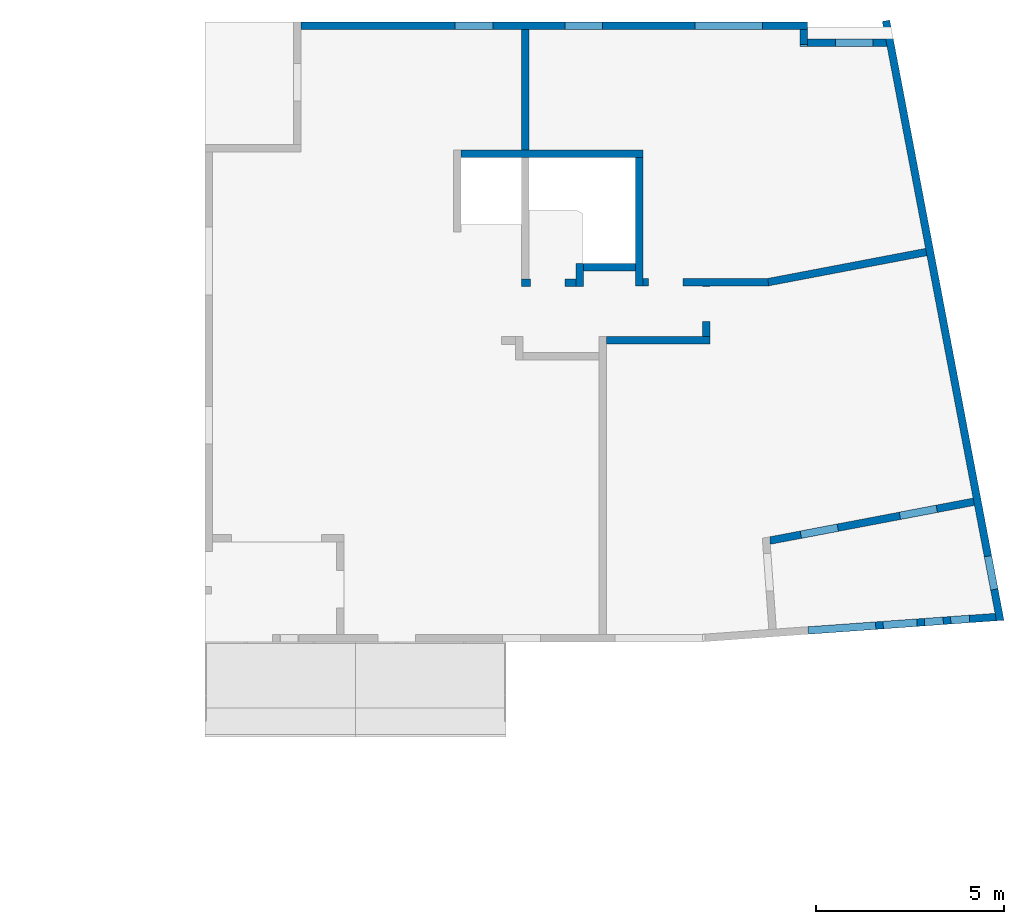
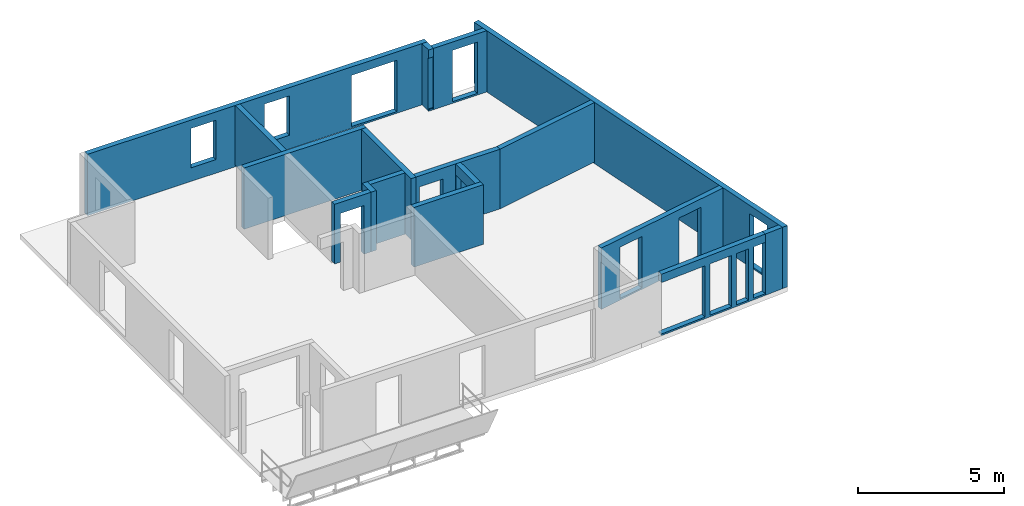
# One storey, part 2 of 6: 17 walls, 17 openings.
"""IFC2X3 building model written with IfcOpenShell, lengths in centimetres."""

from ifc_helpers import new_model, entity, si_unit, converted_unit, derived_unit, direction, frame, frame_2d, origin, origin_2d_with_axis, place, context, subcontext, project, spatial, polyline, rectangle, outline, extrude, clip, bounded_halfspace, material, layer, layer_set, layer_usage, type_object, element, save


model = new_model("IFC2X3")

# Units and contexts
model_context = context("Model", 3, precision=0.001, world=origin(), true_north=direction((6.12303176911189e-17, 1.0)))
body_context = subcontext(model_context, "Body", "Model", "MODEL_VIEW")
ifc_project = project(units=[si_unit("LENGTHUNIT", "METRE", prefix="CENTI"), si_unit("AREAUNIT", "SQUARE_METRE"), si_unit("VOLUMEUNIT", "CUBIC_METRE"), converted_unit("PLANEANGLEUNIT", "DEGREE", entity("IfcRatioMeasure", 0.0174532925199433), si_unit("PLANEANGLEUNIT", "RADIAN"), dimensions=[0, 0, 0, 0, 0, 0, 0]), si_unit("MASSUNIT", "GRAM", prefix="KILO"), si_unit("TIMEUNIT", "SECOND"), si_unit("FREQUENCYUNIT", "HERTZ"), si_unit("THERMODYNAMICTEMPERATUREUNIT", "DEGREE_CELSIUS"), derived_unit("THERMALTRANSMITTANCEUNIT", [(si_unit("MASSUNIT", "GRAM", prefix="KILO"), 1), (si_unit("THERMODYNAMICTEMPERATUREUNIT", "KELVIN"), -1), (si_unit("TIMEUNIT", "SECOND"), -3)]), derived_unit("VOLUMETRICFLOWRATEUNIT", [(si_unit("LENGTHUNIT", "METRE"), 3), (si_unit("TIMEUNIT", "SECOND"), -1)]), si_unit("ELECTRICCURRENTUNIT", "AMPERE"), si_unit("ELECTRICVOLTAGEUNIT", "VOLT"), si_unit("POWERUNIT", "WATT"), si_unit("FORCEUNIT", "NEWTON"), si_unit("ILLUMINANCEUNIT", "LUX"), si_unit("LUMINOUSFLUXUNIT", "LUMEN"), si_unit("LUMINOUSINTENSITYUNIT", "CANDELA"), derived_unit("USERDEFINED", [(si_unit("MASSUNIT", "GRAM", prefix="KILO"), -1), (si_unit("LENGTHUNIT", "METRE"), -2), (si_unit("TIMEUNIT", "SECOND"), 3), (si_unit("LUMINOUSFLUXUNIT", "LUMEN"), 1)]), derived_unit("LINEARVELOCITYUNIT", [(si_unit("LENGTHUNIT", "METRE"), 1), (si_unit("TIMEUNIT", "SECOND"), -1)]), si_unit("PRESSUREUNIT", "PASCAL"), derived_unit("USERDEFINED", [(si_unit("LENGTHUNIT", "METRE"), -2), (si_unit("MASSUNIT", "GRAM", prefix="KILO"), 1), (si_unit("TIMEUNIT", "SECOND"), -2)])], contexts=[model_context])

# Site, building, storey
site_placement = place(None, origin())
site = spatial("IfcSite", under=ifc_project, at=site_placement, Name="Default", CompositionType="ELEMENT")
building_placement = place(site_placement, origin())
building = spatial("IfcBuilding", under=site, at=building_placement, CompositionType="ELEMENT")
storey_placement = place(building_placement, frame((0.0, 0.0, 544.0)))
storey = spatial("IfcBuildingStorey", under=building, at=storey_placement, Name="R+2", CompositionType="ELEMENT", Elevation=544.0)

# Wall, openings
ifc_material_1 = material(Name="Maçonnerie - Béton")
ifc_layer_1 = layer(ifc_material_1, 20.0)
ifc_layer_set_1 = layer_set([ifc_layer_1], Name="Mur de base:BBM_20")
ifc_layer_usage_1 = layer_usage(ifc_layer_set_1, "AXIS2", "NEGATIVE", 10.0)
wall_type_1 = type_object("IfcWallType", Name="Mur de base:BBM_20", PredefinedType="STANDARD", material=ifc_layer_set_1)
wall_1_placement = place(storey_placement, frame((1132.41125005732, 24844.4146604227, -7.0)))
wall_1 = element("IfcWallStandardCase", 1, at=wall_1_placement, inside=storey, type_object=wall_type_1, material=ifc_layer_usage_1, Name="Mur de base:BBM_20", ObjectType="Mur de base:BBM_20", context=body_context, shape_type="Clipping", body=[
    clip(extrude(rectangle(XDim=1346.37702640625, YDim=20.0000000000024, at=frame_2d((673.188513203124, 0.0), x_axis=(-1.0, 0.0))), origin(), (0.0, 0.0, 1.0), 257.0), bounded_halfspace(frame((0.0, -10.0, 257.0), z_axis=(0.0, 0.0, -1.0), x_axis=(0.0, 1.0, 0.0)), True, frame((0.0, -10.0, 257.0)), polyline([(0.0, 0.0), (585.380894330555, 0.0), (605.380894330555, 0.0), (1326.37702640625, 0.0), (1346.37702640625, 0.0), (1346.37702640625, 20.0), (1336.37702640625, 20.0), (0.0, 20.0), (0.0, 0.0)]))),
])
opening_1_placement = place(wall_1_placement, frame((-1132.41125005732, -24844.4146604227, 7.0)))
element("IfcOpeningElement", 2, at=opening_1_placement, cuts=wall_1, Name="Mur de base:BBM_20", ObjectType="Opening", context=body_context, shape_type="SweptSolid", body=[
    extrude(rectangle(XDim=215.0, YDim=180.0, at=origin_2d_with_axis()), frame((2268.78827646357, 24702.0146604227, 107.5), z_axis=(0.0, 1.0, 0.0), x_axis=(0.0, 0.0, -1.0)), (0.0, 0.0, 1.0), 304.8),
])
opening_2_placement = place(wall_1_placement, frame((-1132.41125005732, -24844.4146604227, 7.0)))
element("IfcOpeningElement", 3, at=opening_2_placement, cuts=wall_1, Name="Mur de base:BBM_20", ObjectType="Opening", context=body_context, shape_type="SweptSolid", body=[
    extrude(rectangle(XDim=165.0, YDim=100.0, at=frame_2d((-5.6843418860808e-14, 1.10134124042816e-13), x_axis=(1.0, 0.0))), frame((1591.79214438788, 24702.0146604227, 132.5), z_axis=(0.0, 1.0, 0.0), x_axis=(0.0, 0.0, -1.0)), (0.0, 0.0, 1.0), 304.8),
])
opening_3_placement = place(wall_1_placement, frame((-1132.41125005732, -24844.4146604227, 7.0)))
element("IfcOpeningElement", 4, at=opening_3_placement, cuts=wall_1, Name="Mur de base:BBM_20", ObjectType="Opening", context=body_context, shape_type="SweptSolid", body=[
    extrude(rectangle(XDim=165.0, YDim=100.0, at=frame_2d((-5.6843418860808e-14, -1.06581410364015e-13), x_axis=(1.0, 0.0))), frame((1883.79214438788, 24702.0146604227, 132.5), z_axis=(0.0, 1.0, 0.0), x_axis=(0.0, 0.0, -1.0)), (0.0, 0.0, 1.0), 304.8),
])

# Wall, opening
ifc_layer_usage_2 = layer_usage(ifc_layer_set_1, "AXIS2", "NEGATIVE", 10.0)
wall_2_placement = place(storey_placement, frame((2468.78827646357, 24834.4146604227, -7.0), z_axis=(0.0, 0.0, 1.0), x_axis=(0.0, -1.0, 0.0)))
wall_2 = element("IfcWallStandardCase", 5, at=wall_2_placement, inside=storey, type_object=wall_type_1, material=ifc_layer_usage_2, Name="Mur de base:BBM_20", ObjectType="Mur de base:BBM_20", context=body_context, shape_type="Clipping", body=[
    clip(extrude(rectangle(XDim=44.3031556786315, YDim=19.9999999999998, at=frame_2d((22.1515778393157, 5.24025267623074e-14), x_axis=(-1.0, 0.0))), origin(), (0.0, 0.0, 1.0), 257.0), bounded_halfspace(frame((0.0, -10.0, 257.0), z_axis=(0.0, 0.0, -1.0), x_axis=(-1.0, 0.0, 0.0)), True, frame((0.0, -10.0, 257.0)), polyline([(0.0, 0.0), (44.3031556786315, 0.0), (44.3031556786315, 20.0), (24.3031556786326, 20.0), (0.0, 20.0), (0.0, 0.0)]))),
])
opening_4_placement = place(wall_2_placement, frame((24834.4146604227, -2468.78827646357, 7.0), z_axis=(0.0, 0.0, 1.0), x_axis=(0.0, 1.0, 0.0)))
element("IfcOpeningElement", 6, at=opening_4_placement, cuts=wall_2, Name="Mur de base:BBM_20", ObjectType="Opening", context=body_context, shape_type="SweptSolid", body=[
    extrude(rectangle(XDim=215.0, YDim=99.9999999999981, at=frame_2d((1.73372427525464e-12, 0.0), x_axis=(0.0, 1.0))), frame((2306.38827646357, 24744.4665988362, 107.5), z_axis=(1.0, 0.0, 0.0), x_axis=(0.0, -1.0, 0.0)), (0.0, 0.0, 1.0), 304.8),
])

# Wall, openings
ifc_layer_usage_3 = layer_usage(ifc_layer_set_1, "AXIS2", "NEGATIVE", 10.0)
wall_3_placement = place(storey_placement, frame((2478.78827646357, 24800.1115047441, -7.0)))
wall_3 = element("IfcWallStandardCase", 7, at=wall_3_placement, inside=storey, type_object=wall_type_1, material=ifc_layer_usage_3, Name="Mur de base:BBM_20", ObjectType="Mur de base:BBM_20", context=body_context, shape_type="Clipping", body=[
    clip(extrude(outline(polyline([(211.092975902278, -10.0), (207.284266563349, 10.0), (0.0, 10.0), (0.0, -10.0), (211.092975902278, -10.0)])), origin(), (0.0, 0.0, 1.0), 257.0), bounded_halfspace(frame((0.0, -10.0, 257.0), z_axis=(0.0, 0.0, -1.0), x_axis=(0.0, 1.0, 0.0)), True, frame((0.0, -10.0, 257.0)), polyline([(0.0, 0.0), (211.092975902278, 0.0), (207.284266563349, 20.0), (0.0, 20.0), (0.0, 0.0)]))),
])
opening_5_placement = place(wall_3_placement, origin())
element("IfcOpeningElement", 8, at=opening_5_placement, cuts=wall_3, Name="Mur de base:BBM_20", ObjectType="Opening", context=body_context, shape_type="SweptSolid", body=[
    extrude(rectangle(XDim=215.0, YDim=19.9999999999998, at=frame_2d((0.0, 0.0), x_axis=(0.0, 1.0))), frame((-10.0, -105.64490590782, 114.5), z_axis=(0.0, 1.0, 0.0), x_axis=(1.0, 0.0, 0.0)), (0.0, 0.0, 1.0), 99.9999999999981),
])
opening_6_placement = place(wall_3_placement, frame((-2478.78827646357, -24800.1115047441, 7.0)))
element("IfcOpeningElement", 9, at=opening_6_placement, cuts=wall_3, Name="Mur de base:BBM_20", ObjectType="Opening", context=body_context, shape_type="SweptSolid", body=[
    extrude(rectangle(XDim=215.0, YDim=99.9999999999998, at=frame_2d((0.0, 4.29878355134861e-13), x_axis=(1.0, 0.0))), frame((2602.78827646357, 24657.711504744, 107.5), z_axis=(0.0, 1.0, 0.0), x_axis=(0.0, 0.0, -1.0)), (0.0, 0.0, 1.0), 304.8),
])

ifc_layer_usage_4 = layer_usage(ifc_layer_set_1, "AXIS2", "NEGATIVE", 10.0)
wall_4_placement = place(storey_placement, frame((2377.58832301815, 23476.1672164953, -7.0), z_axis=(0.0, 0.0, 1.0), x_axis=(0.982345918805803, 0.187073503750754, 0.0)))
wall_4 = element("IfcWallStandardCase", 10, at=wall_4_placement, inside=storey, type_object=wall_type_1, material=ifc_layer_usage_4, Name="Mur de base:BBM_20", ObjectType="Mur de base:BBM_20", context=body_context, shape_type="Clipping", body=[
    clip(extrude(outline(polyline([(552.583846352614, -10.0), (552.583846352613, 10.0), (2.34328815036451, 10.0), (0.0, -10.0), (552.583846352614, -10.0)])), origin(), (0.0, 0.0, 1.0), 257.0), bounded_halfspace(frame((0.0, -10.0, 257.0), z_axis=(0.0, 0.0, -1.0), x_axis=(0.187073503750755, 0.982345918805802, 0.0)), True, frame((0.0, -10.0, 257.0)), polyline([(0.0, 0.0), (552.583846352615, 0.0), (552.583846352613, 20.0), (2.34328815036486, 20.0), (0.0, 0.0)]))),
])
opening_7_placement = place(wall_4_placement, frame((-6727.38304154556, -22616.9332762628, 7.0), z_axis=(0.0, 0.0, 1.0), x_axis=(0.982345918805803, -0.187073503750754, 0.0)))
element("IfcOpeningElement", 11, at=opening_7_placement, cuts=wall_4, Name="Mur de base:BBM_20", ObjectType="Opening", context=body_context, shape_type="SweptSolid", body=[
    extrude(rectangle(XDim=215.0, YDim=100.0, at=frame_2d((-4.2632564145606e-13, 0.0), x_axis=(0.0, 1.0))), frame((2540.17695222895, 23341.8113109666, 107.5), z_axis=(-0.18707350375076, 0.982345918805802, 0.0), x_axis=(0.982345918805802, 0.18707350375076, 0.0)), (0.0, 0.0, 1.0), 304.799999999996),
])
opening_8_placement = place(wall_4_placement, frame((-6727.38304154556, -22616.9332762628, 7.0), z_axis=(0.0, 0.0, 1.0), x_axis=(0.982345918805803, -0.187073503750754, 0.0)))
element("IfcOpeningElement", 12, at=opening_8_placement, cuts=wall_4, Name="Mur de base:BBM_20", ObjectType="Opening", context=body_context, shape_type="SweptSolid", body=[
    extrude(rectangle(XDim=215.0, YDim=100.0, at=origin_2d_with_axis()), frame((2799.70418839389, 23411.5939283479, 107.5), z_axis=(-0.18707350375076, 0.982345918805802, 0.0), x_axis=(0.0, 0.0, -1.0)), (0.0, 0.0, 1.0), 304.8),
])

# Wall, opening
ifc_layer_usage_5 = layer_usage(ifc_layer_set_1, "AXIS2", "NEGATIVE", 10.0)
wall_5_placement = place(storey_placement, frame((2990.93965217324, 23262.6718372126, -7.0), z_axis=(0.0, 0.0, 1.0), x_axis=(-0.187073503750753, 0.982345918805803, 0.0)))
wall_5 = element("IfcWallStandardCase", 13, at=wall_5_placement, inside=storey, type_object=wall_type_1, material=ifc_layer_usage_5, Name="Mur de base:BBM_20", ObjectType="Mur de base:BBM_20", context=body_context, shape_type="Clipping", body=[
    clip(extrude(outline(polyline([(1624.28965271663, -10.0), (1624.28965271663, 10.0), (1577.15360028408, 10.0), (1556.79417330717, 10.0), (334.468096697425, 10.0), (314.468096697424, 10.0), (22.4800952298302, 10.0), (2.34328815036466, 10.0), (0.0, -10.0), (1624.28965271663, -10.0)])), origin(), (0.0, 0.0, 1.0), 257.0), bounded_halfspace(frame((0.0, -10.0, 257.0), z_axis=(0.0, 0.0, -1.0), x_axis=(0.982345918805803, -0.187073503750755, 0.0)), True, frame((0.0, -10.0, 257.0)), polyline([(0.0, 0.0), (1618.44423408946, 0.0), (1622.25294342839, 20.0), (1577.15360028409, 20.0), (1556.79417330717, 20.0), (1010.14667715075, 20.0), (990.146677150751, 20.0), (334.468096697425, 20.0), (314.468096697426, 20.0), (22.4800952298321, 20.0), (2.34328815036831, 20.0), (0.0, 0.0)]))),
])
opening_9_placement = place(wall_5_placement, frame((-22292.4651795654, 7289.96688789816, 7.0), z_axis=(0.0, 0.0, 1.0), x_axis=(-0.187073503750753, -0.982345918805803, 0.0)))
element("IfcOpeningElement", 14, at=opening_9_placement, cuts=wall_5, Name="Mur de base:BBM_20", ObjectType="Opening", context=body_context, shape_type="SweptSolid", body=[
    extrude(rectangle(XDim=215.0, YDim=90.0000000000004, at=origin_2d_with_axis()), frame((3106.4612489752, 23417.2518833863, 107.5), z_axis=(-0.982345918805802, -0.187073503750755, 0.0), x_axis=(0.0, 0.0, -1.0)), (0.0, 0.0, 1.0), 304.800000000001),
])

ifc_layer_usage_6 = layer_usage(ifc_layer_set_1, "AXIS2", "NEGATIVE", 10.0)
wall_6_placement = place(storey_placement, frame((2979.96294066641, 23273.0774359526, -7.0), z_axis=(0.0, 0.0, 1.0), x_axis=(-0.997441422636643, -0.0714885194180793, 0.0)))
wall_6 = element("IfcWallStandardCase", 15, at=wall_6_placement, inside=storey, type_object=wall_type_1, material=ifc_layer_usage_6, Name="Mur de base:BBM_20", ObjectType="Mur de base:BBM_20", context=body_context, shape_type="Clipping", body=[
    clip(extrude(outline(polyline([(71.1032405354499, -10.0), (71.1032405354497, 9.85873829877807), (71.1032405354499, 10.0), (0.0, 10.0), (2.34328815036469, -10.0), (71.1032405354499, -10.0)])), origin(), (0.0, 0.0, 1.0), 257.0), bounded_halfspace(frame((2.34328815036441, -10.0, 257.0), z_axis=(0.0, 0.0, -1.0), x_axis=(-0.0714885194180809, -0.997441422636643, 0.0)), True, frame((2.34328815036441, -10.0, 257.0)), polyline([(0.0, 0.0), (68.759952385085, 0.0), (68.759952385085, 19.8587382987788), (68.7599523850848, 20.0), (-2.34328815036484, 20.0), (-2.3267373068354, 19.8587382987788), (0.0, 0.0)]))),
])
opening_10_placement = place(wall_6_placement, origin())
element("IfcOpeningElement", 16, at=opening_10_placement, cuts=wall_6, Name="Mur de base:BBM_20", ObjectType="Opening", context=body_context, shape_type="SweptSolid", body=[
    extrude(rectangle(XDim=215.0, YDim=50.0000000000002, at=frame_2d((2.1493917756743e-13, 0.0), x_axis=(0.0, 1.0))), frame((96.1032405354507, -162.541261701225, 114.5), z_axis=(0.0, 1.0, 0.0), x_axis=(1.0, 0.0, 0.0)), (0.0, 0.0, 1.0), 304.8),
])

# Walls
ifc_material_2 = material(Name="Béton_C25/30")
ifc_layer_2 = layer(ifc_material_2, 20.0)
ifc_layer_set_2 = layer_set([ifc_layer_2], Name="Mur de base:VOILE_20_C25/30")
ifc_layer_usage_7 = layer_usage(ifc_layer_set_2, "AXIS2", "NEGATIVE", 10.0)
wall_type_2 = type_object("IfcWallType", Name="Mur de base:VOILE_20_C25/30", PredefinedType="STANDARD", material=ifc_layer_set_2)
wall_7_placement = place(storey_placement, frame((1557.79189994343, 24505.1396586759, -7.0)))
element("IfcWallStandardCase", 17, at=wall_7_placement, inside=storey, type_object=wall_type_2, material=ifc_layer_usage_7, Name="Mur de base:VOILE_20_C25/30", ObjectType="Mur de base:VOILE_20_C25/30", context=body_context, shape_type="Clipping", body=[
    clip(extrude(rectangle(XDim=484.000708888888, YDim=20.0000000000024, at=frame_2d((242.000354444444, 0.0), x_axis=(-1.0, 0.0))), origin(), (0.0, 0.0, 1.0), 257.0), bounded_halfspace(frame((0.0, -10.0, 257.0), z_axis=(0.0, 0.0, -1.0), x_axis=(0.0, 1.0, 0.0)), True, frame((0.0, -10.0, 257.0)), polyline([(0.0, 0.0), (160.000244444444, 0.0), (180.000244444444, 0.0), (464.000708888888, 0.0), (484.000708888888, 0.0), (484.000708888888, 20.0), (180.000244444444, 20.0), (160.000244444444, 20.0), (0.0, 20.0), (0.0, 0.0)]))),
])
ifc_layer_usage_8 = layer_usage(ifc_layer_set_2, "AXIS2", "NEGATIVE", 10.0)
wall_8_placement = place(storey_placement, frame((2031.79260883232, 24495.1396586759, -7.0), z_axis=(0.0, 0.0, 1.0), x_axis=(0.0, -1.0, 0.0)))
element("IfcWallStandardCase", 18, at=wall_8_placement, inside=storey, type_object=wall_type_2, material=ifc_layer_usage_8, Name="Mur de base:VOILE_20_C25/30", ObjectType="Mur de base:VOILE_20_C25/30", context=body_context, shape_type="Clipping", body=[
    clip(extrude(rectangle(XDim=341.833817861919, YDim=19.9999999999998, at=frame_2d((170.916908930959, -4.44089209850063e-15), x_axis=(-1.0, 0.0))), origin(), (0.0, 0.0, 1.0), 257.0), bounded_halfspace(frame((0.0, -10.0, 257.0), z_axis=(0.0, 0.0, -1.0), x_axis=(-1.0, 0.0, 0.0)), True, frame((0.0, -10.0, 257.0)), polyline([(0.0, 0.0), (281.833729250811, 0.0), (301.83372925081, 0.0), (341.833817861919, 0.0), (341.833817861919, 20.0), (321.83381786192, 20.0), (0.0, 20.0), (0.0, 0.0)]))),
])
ifc_layer_usage_9 = layer_usage(ifc_layer_set_2, "AXIS2", "NEGATIVE", 10.0)
wall_9_placement = place(storey_placement, frame((2021.79260883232, 24203.3059294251, -7.0), z_axis=(0.0, 0.0, 1.0), x_axis=(-1.0, 0.0, 0.0)))
element("IfcWallStandardCase", 19, at=wall_9_placement, inside=storey, type_object=wall_type_2, material=ifc_layer_usage_9, Name="Mur de base:VOILE_20_C25/30", ObjectType="Mur de base:VOILE_20_C25/30", context=body_context, shape_type="Clipping", body=[
    clip(extrude(rectangle(XDim=139.000213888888, YDim=20.0000000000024, at=frame_2d((69.5001069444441, 0.0), x_axis=(-1.0, 0.0))), origin(), (0.0, 0.0, 1.0), 257.0), bounded_halfspace(frame((0.0, -10.0, 257.0), z_axis=(0.0, 0.0, -1.0), x_axis=(0.0, -1.0, 0.0)), True, frame((0.0, -10.0, 257.0)), polyline([(0.0, 0.0), (139.000213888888, 0.0), (139.000213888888, 20.0), (0.0, 20.0), (0.0, 0.0)]))),
])
ifc_layer_usage_10 = layer_usage(ifc_layer_set_2, "AXIS2", "NEGATIVE", 10.0)
wall_10_placement = place(storey_placement, frame((1872.79239494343, 24213.3059294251, 0.0), z_axis=(0.0, 0.0, 1.0), x_axis=(0.0, -1.0, 0.0)))
element("IfcWallStandardCase", 20, at=wall_10_placement, inside=storey, type_object=wall_type_2, material=ifc_layer_usage_10, Name="Mur de base:VOILE_20_C25/30", ObjectType="Mur de base:VOILE_20_C25/30", context=body_context, shape_type="Clipping", body=[
    clip(extrude(rectangle(XDim=62.0000641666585, YDim=19.9999999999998, at=frame_2d((31.0000320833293, 0.0), x_axis=(-1.0, 0.0))), origin(), (0.0, 0.0, 1.0), 250.0), bounded_halfspace(frame((0.0, -10.0, 250.0), z_axis=(0.0, 0.0, -1.0), x_axis=(-1.0, 0.0, 0.0)), True, frame((0.0, -10.0, 250.0)), polyline([(0.0, 0.0), (42.0000641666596, 0.0), (62.0000641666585, 0.0), (62.0000641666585, 20.0), (20.0, 20.0), (0.0, 20.0), (0.0, 0.0)]))),
])

# Wall, opening
ifc_layer_usage_11 = layer_usage(ifc_layer_set_2, "AXIS2", "NEGATIVE", 10.0)
wall_11_placement = place(storey_placement, frame((1862.79239494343, 24161.3058652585, 0.0), z_axis=(0.0, 0.0, 1.0), x_axis=(-1.0, 0.0, 0.0)))
wall_11 = element("IfcWallStandardCase", 21, at=wall_11_placement, inside=storey, type_object=wall_type_2, material=ifc_layer_usage_11, Name="Mur de base:VOILE_20_C25/30", ObjectType="Mur de base:VOILE_20_C25/30", context=body_context, shape_type="Clipping", body=[
    clip(extrude(rectangle(XDim=145.000250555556, YDim=20.0000000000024, at=frame_2d((72.5001252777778, 0.0), x_axis=(-1.0, 0.0))), origin(), (0.0, 0.0, 1.0), 250.0), bounded_halfspace(frame((0.0, -10.0, 250.0), z_axis=(0.0, 0.0, -1.0), x_axis=(0.0, -1.0, 0.0)), True, frame((0.0, -10.0, 250.0)), polyline([(0.0, 0.0), (125.000250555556, 0.0), (145.000250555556, 0.0), (145.000250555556, 20.0), (0.0, 20.0), (0.0, 0.0)]))),
])
opening_11_placement = place(wall_11_placement, frame((1862.79239494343, 24161.3058652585, 0.0), z_axis=(0.0, 0.0, 1.0), x_axis=(-1.0, 0.0, 0.0)))
element("IfcOpeningElement", 22, at=opening_11_placement, cuts=wall_11, Name="Mur de base:VOILE_20_C25/30", ObjectType="Opening", context=body_context, shape_type="SweptSolid", body=[
    extrude(rectangle(XDim=204.0, YDim=91.9999999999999, at=origin_2d_with_axis()), frame((1787.79214438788, 24303.7058652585, 102.0), z_axis=(0.0, -1.0, 0.0), x_axis=(0.0, 0.0, -1.0)), (0.0, 0.0, 1.0), 304.8),
])

# Walls
ifc_layer_usage_12 = layer_usage(ifc_layer_set_2, "AXIS2", "NEGATIVE", 10.0)
wall_12_placement = place(storey_placement, frame((1727.79214438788, 24515.1396586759, 0.0), z_axis=(0.0, 0.0, 1.0), x_axis=(0.0, 1.0, 0.0)))
element("IfcWallStandardCase", 23, at=wall_12_placement, inside=storey, type_object=wall_type_2, material=ifc_layer_usage_12, Name="Mur de base:VOILE_20_C25/30", ObjectType="Mur de base:VOILE_20_C25/30", context=body_context, shape_type="Clipping", body=[
    clip(extrude(rectangle(XDim=319.275001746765, YDim=20.0000000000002, at=frame_2d((159.637500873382, -5.32907051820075e-15), x_axis=(-1.0, 0.0))), origin(), (0.0, 0.0, 1.0), 250.0), bounded_halfspace(frame((0.0, -10.0, 250.0), z_axis=(0.0, 0.0, -1.0), x_axis=(1.0, 0.0, 0.0)), True, frame((0.0, -10.0, 250.0)), polyline([(0.0, 0.0), (319.275001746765, 0.0), (319.275001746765, 20.0), (0.0, 20.0), (0.0, 0.0)]))),
])
ifc_layer_usage_13 = layer_usage(ifc_layer_set_2, "AXIS2", "NEGATIVE", 10.0)
wall_13_placement = place(storey_placement, frame((1944.14752229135, 24008.3056315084, 0.0)))
element("IfcWallStandardCase", 24, at=wall_13_placement, inside=storey, type_object=wall_type_2, material=ifc_layer_usage_13, Name="Mur de base:VOILE_20_C25/30", ObjectType="Mur de base:VOILE_20_C25/30", context=body_context, shape_type="Clipping", body=[
    clip(extrude(rectangle(XDim=274.510388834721, YDim=20.0000000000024, at=frame_2d((137.25519441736, 0.0), x_axis=(-1.0, 0.0))), origin(), (0.0, 0.0, 1.0), 250.0), bounded_halfspace(frame((0.0, -10.0, 250.0), z_axis=(0.0, 0.0, -1.0), x_axis=(0.0, 1.0, 0.0)), True, frame((0.0, -10.0, 250.0)), polyline([(0.0, 0.0), (274.510388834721, 0.0), (274.510388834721, 20.0), (254.510388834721, 20.0), (0.0, 20.0), (0.0, 0.0)]))),
])

# Wall, opening
ifc_layer_usage_14 = layer_usage(ifc_layer_set_2, "AXIS2", "NEGATIVE", 10.0)
wall_14_placement = place(storey_placement, frame((2208.65791112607, 24018.3056315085, 0.0), z_axis=(0.0, 0.0, 1.0), x_axis=(0.0, 1.0, 0.0)))
wall_14 = element("IfcWallStandardCase", 25, at=wall_14_placement, inside=storey, type_object=wall_type_2, material=ifc_layer_usage_14, Name="Mur de base:VOILE_20_C25/30", ObjectType="Mur de base:VOILE_20_C25/30", context=body_context, shape_type="Clipping", body=[
    clip(extrude(rectangle(XDim=135.000209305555, YDim=19.9999999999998, at=frame_2d((67.5001046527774, -1.59872115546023e-14), x_axis=(-1.0, 0.0))), origin(), (0.0, 0.0, 1.0), 250.0), bounded_halfspace(frame((0.0, -10.0, 250.0), z_axis=(0.0, 0.0, -1.0), x_axis=(1.0, 0.0, 0.0)), True, frame((0.0, -10.0, 250.0)), polyline([(0.0, 0.0), (135.000209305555, 0.0), (135.000209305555, 20.0), (0.0, 20.0), (0.0, 0.0)]))),
])
opening_12_placement = place(wall_14_placement, frame((-24018.3056315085, 2208.65791112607, 0.0), z_axis=(0.0, 0.0, 1.0), x_axis=(0.0, -1.0, 0.0)))
element("IfcOpeningElement", 26, at=opening_12_placement, cuts=wall_14, Name="Mur de base:VOILE_20_C25/30", ObjectType="Opening", context=body_context, shape_type="SweptSolid", body=[
    extrude(rectangle(XDim=204.0, YDim=91.9999999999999, at=frame_2d((0.0, 3.46744855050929e-12), x_axis=(1.0, 0.0))), frame((2351.05791112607, 24105.305840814, 102.0), z_axis=(-1.0, 0.0, 0.0), x_axis=(0.0, 0.0, -1.0)), (0.0, 0.0, 1.0), 304.8),
])

ifc_layer_usage_15 = layer_usage(ifc_layer_set_2, "AXIS2", "NEGATIVE", 10.0)
wall_15_placement = place(storey_placement, frame((2041.79260883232, 24163.305840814, 0.0)))
wall_15 = element("IfcWallStandardCase", 27, at=wall_15_placement, inside=storey, type_object=wall_type_2, material=ifc_layer_usage_15, Name="Mur de base:VOILE_20_C25/30", ObjectType="Mur de base:VOILE_20_C25/30", context=body_context, shape_type="Clipping", body=[
    clip(extrude(outline(polyline([(0.0, -10.0), (156.865302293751, -10.0), (176.865302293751, -10.0), (333.153884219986, -10.0), (331.266489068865, 10.0), (0.0, 10.0), (0.0, -10.0)])), origin(), (0.0, 0.0, 1.0), 250.0), bounded_halfspace(frame((0.0, -10.0, 250.0), z_axis=(0.0, 0.0, -1.0), x_axis=(0.0, 1.0, 0.0)), True, frame((0.0, -10.0, 250.0)), polyline([(0.0, 0.0), (156.865302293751, 0.0), (176.865302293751, 0.0), (333.153884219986, 0.0), (331.266489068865, 20.0), (0.0, 20.0), (0.0, 0.0)]))),
])
opening_13_placement = place(wall_15_placement, frame((-2041.79260883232, -24163.305840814, 0.0)))
element("IfcOpeningElement", 28, at=opening_13_placement, cuts=wall_15, Name="Mur de base:VOILE_20_C25/30", ObjectType="Opening", context=body_context, shape_type="SweptSolid", body=[
    extrude(rectangle(XDim=204.0, YDim=92.0000000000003, at=frame_2d((0.0, 0.0), x_axis=(0.0, 1.0))), frame((2101.79260883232, 24000.905840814, 102.0), z_axis=(0.0, 1.0, 0.0), x_axis=(1.0, 0.0, 0.0)), (0.0, 0.0, 1.0), 304.8),
])

# Wall
ifc_layer_usage_16 = layer_usage(ifc_layer_set_2, "AXIS2", "NEGATIVE", 10.0)
wall_16_placement = place(storey_placement, frame((2373.0757580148, 24163.1293000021, 0.0), z_axis=(0.0, 0.0, 1.0), x_axis=(0.982345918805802, 0.187073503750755, 0.0)))
element("IfcWallStandardCase", 29, at=wall_16_placement, inside=storey, type_object=wall_type_2, material=ifc_layer_usage_16, Name="Mur de base:VOILE_20_C25/30", ObjectType="Mur de base:VOILE_20_C25/30", context=body_context, shape_type="Clipping", body=[
    clip(extrude(outline(polyline([(428.504342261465, -10.0), (428.504342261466, 10.0), (1.88739515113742, 10.0), (0.0, -10.0), (428.504342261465, -10.0)])), origin(), (0.0, 0.0, 1.0), 250.0), bounded_halfspace(frame((0.0, -10.0, 250.0), z_axis=(0.0, 0.0, -1.0), x_axis=(0.187073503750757, 0.982345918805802, 0.0)), True, frame((0.0, -10.0, 250.0)), polyline([(0.0, 0.0), (428.504342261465, 0.0), (428.504342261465, 20.0), (1.88739515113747, 20.0), (0.0, 0.0)]))),
])

# Wall, openings
ifc_layer_usage_17 = layer_usage(ifc_layer_set_2, "AXIS2", "NEGATIVE", 10.0)
wall_17_placement = place(storey_placement, frame((2480.13171294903, 23237.3952074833, -7.0), z_axis=(0.0, 0.0, 1.0), x_axis=(0.997441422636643, 0.0714885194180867, 0.0)))
wall_17 = element("IfcWallStandardCase", 30, at=wall_17_placement, inside=storey, type_object=wall_type_2, material=ifc_layer_usage_17, Name="Mur de base:VOILE_20_C25/30", ObjectType="Mur de base:VOILE_20_C25/30", context=body_context, shape_type="Clipping", body=[
    clip(extrude(rectangle(XDim=430.0, YDim=20.0000000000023, at=frame_2d((215.0, -3.22408766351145e-13), x_axis=(-1.0, 0.0))), origin(), (0.0, 0.0, 1.0), 257.0), bounded_halfspace(frame((0.0, -10.0, 257.0), z_axis=(0.0, 0.0, -1.0), x_axis=(0.0714885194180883, 0.997441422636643, 0.0)), True, frame((0.0, -10.0, 257.0)), polyline([(0.0, 0.0), (430.0, 0.0), (430.0, 19.8587382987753), (430.0, 20.0), (0.0, 20.0), (0.0, 0.0)]))),
])
opening_14_placement = place(wall_17_placement, frame((-4134.99308260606, -23000.6395900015, 7.0), z_axis=(0.0, 0.0, 1.0), x_axis=(0.997441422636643, -0.0714885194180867, 0.0)))
element("IfcOpeningElement", 31, at=opening_14_placement, cuts=wall_17, Name="Mur de base:VOILE_20_C25/30", ObjectType="Opening", context=body_context, shape_type="SweptSolid", body=[
    extrude(rectangle(XDim=215.0, YDim=180.0, at=frame_2d((-2.20268248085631e-13, 0.0), x_axis=(0.0, 1.0))), frame((2581.51117653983, 23081.8446871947, 107.5), z_axis=(-0.0714885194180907, 0.997441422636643, 0.0), x_axis=(0.997441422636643, 0.0714885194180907, 0.0)), (0.0, 0.0, 1.0), 304.8),
])
opening_15_placement = place(wall_17_placement, frame((-4134.99308260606, -23000.6395900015, 7.0), z_axis=(0.0, 0.0, 1.0), x_axis=(0.997441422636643, -0.0714885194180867, 0.0)))
element("IfcOpeningElement", 32, at=opening_15_placement, cuts=wall_17, Name="Mur de base:VOILE_20_C25/30", ObjectType="Opening", context=body_context, shape_type="SweptSolid", body=[
    extrude(rectangle(XDim=215.0, YDim=49.9999999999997, at=frame_2d((0.0, 4.31654711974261e-13), x_axis=(1.0, 0.0))), frame((2894.27545428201, 23124.3123992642, 107.5), z_axis=(-0.0714885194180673, 0.997441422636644, 0.0), x_axis=(0.0, 0.0, -1.0)), (0.0, 0.0, 1.0), 304.799999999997),
])
opening_16_placement = place(wall_17_placement, frame((-4134.99308260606, -23000.6395900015, 7.0), z_axis=(0.0, 0.0, 1.0), x_axis=(0.997441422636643, -0.0714885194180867, 0.0)))
element("IfcOpeningElement", 33, at=opening_16_placement, cuts=wall_17, Name="Mur de base:VOILE_20_C25/30", ObjectType="Opening", context=body_context, shape_type="SweptSolid", body=[
    extrude(rectangle(XDim=215.0, YDim=90.0000000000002, at=frame_2d((0.0, 1.24344978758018e-13), x_axis=(1.0, 0.0))), frame((2734.68482666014, 23112.8742361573, 107.5), z_axis=(-0.0714885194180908, 0.997441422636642, 0.0), x_axis=(0.0, 0.0, -1.0)), (0.0, 0.0, 1.0), 304.800000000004),
])
opening_17_placement = place(wall_17_placement, frame((-4134.99308260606, -23000.6395900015, 7.0), z_axis=(0.0, 0.0, 1.0), x_axis=(0.997441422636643, -0.0714885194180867, 0.0)))
element("IfcOpeningElement", 34, at=opening_17_placement, cuts=wall_17, Name="Mur de base:VOILE_20_C25/30", ObjectType="Opening", context=body_context, shape_type="SweptSolid", body=[
    extrude(rectangle(XDim=215.0, YDim=50.0000000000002, at=frame_2d((0.0, 2.1493917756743e-13), x_axis=(1.0, 0.0))), frame((2824.45455469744, 23119.3082029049, 107.5), z_axis=(-0.0714885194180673, 0.997441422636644, 0.0), x_axis=(0.0, 0.0, -1.0)), (0.0, 0.0, 1.0), 304.8),
])

save(model, "model.ifc")
